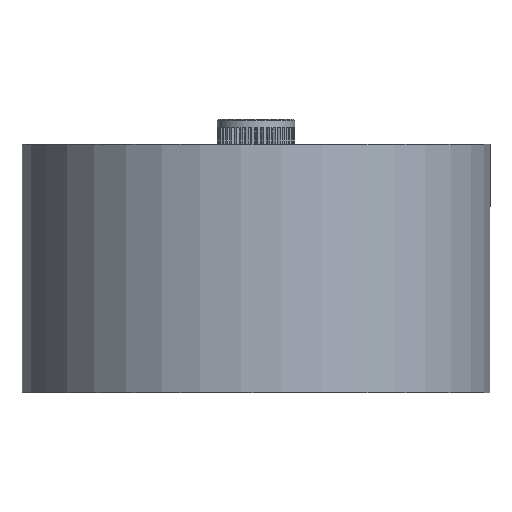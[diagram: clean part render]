
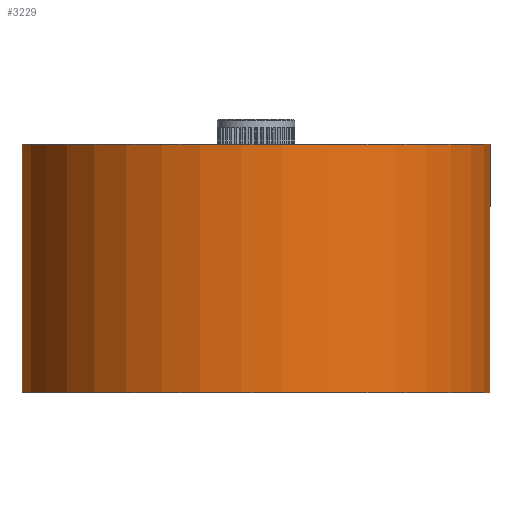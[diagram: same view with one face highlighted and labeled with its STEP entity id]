
A CAD part, front view. The second image highlights one B-rep face of the part: STEP entity #3229.
In plain terms, the highlighted cylindrical face has radius 24 mm (diameter 48 mm), a full revolution.
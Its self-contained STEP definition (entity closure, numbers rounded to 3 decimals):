
#2368=CARTESIAN_POINT('',(13.325,19.961,18.856));
#2369=VERTEX_POINT('',#2368);
#2370=CARTESIAN_POINT('',(0.,0.,18.856));
#2371=DIRECTION('',(0.0,0.0,-1.0));
#2372=DIRECTION('',(-0.555,-0.832,0.0));
#2373=AXIS2_PLACEMENT_3D('',#2370,#2371,#2372);
#2374=CIRCLE('',#2373,24.);
#2375=EDGE_CURVE('',#2369,#2369,#2374,.F.);
#3210=CARTESIAN_POINT('',(0.,0.,-6.604));
#3211=DIRECTION('',(0.0,0.0,1.0));
#3212=DIRECTION('',(-0.555,-0.832,0.0));
#3213=AXIS2_PLACEMENT_3D('',#3210,#3211,#3212);
#3214=CYLINDRICAL_SURFACE('',#3213,24.);
#3215=ORIENTED_EDGE('',*,*,#2375,.F.);
#3216=EDGE_LOOP('',(#3215));
#3217=FACE_OUTER_BOUND('',#3216,.T.);
#3218=CARTESIAN_POINT('',(13.325,19.961,-6.604));
#3219=VERTEX_POINT('',#3218);
#3220=CARTESIAN_POINT('',(0.,0.,-6.604));
#3221=DIRECTION('',(0.0,0.0,1.0));
#3222=DIRECTION('',(-0.555,-0.832,0.0));
#3223=AXIS2_PLACEMENT_3D('',#3220,#3221,#3222);
#3224=CIRCLE('',#3223,24.);
#3225=EDGE_CURVE('',#3219,#3219,#3224,.F.);
#3226=ORIENTED_EDGE('',*,*,#3225,.F.);
#3227=EDGE_LOOP('',(#3226));
#3228=FACE_BOUND('',#3227,.T.);
#3229=ADVANCED_FACE('',(#3217,#3228),#3214,.T.);
